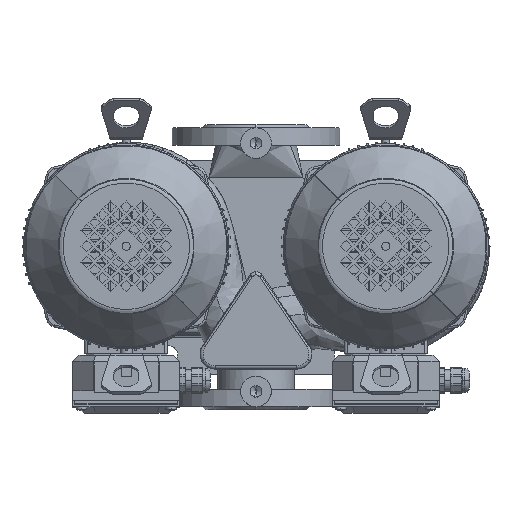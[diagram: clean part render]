
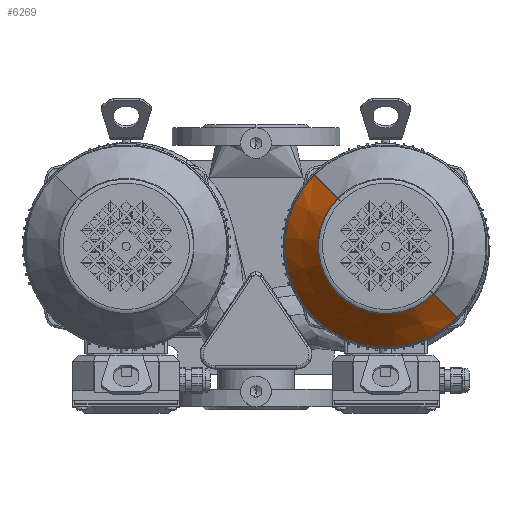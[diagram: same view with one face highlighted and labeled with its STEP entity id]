
A CAD part, top view. The second image highlights one B-rep face of the part: STEP entity #6269.
In plain terms, the highlighted conical face has half-angle 38.66 degrees and reference radius 65 mm.
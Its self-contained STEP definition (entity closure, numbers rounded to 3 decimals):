
#6269=ADVANCED_FACE('NONE',(#14769),#14770,.T.);
#14769=FACE_OUTER_BOUND('',#26316,.T.);
#14770=CONICAL_SURFACE('',#26317,65.0,0.675);
#26316=EDGE_LOOP('',(#42287,#42288,#42289,#42290));
#26317=AXIS2_PLACEMENT_3D('',#42291,#42292,#42293);
#42287=ORIENTED_EDGE('',*,*,#49682,.T.);
#42288=ORIENTED_EDGE('',*,*,#49733,.T.);
#42289=ORIENTED_EDGE('',*,*,#49684,.T.);
#42290=ORIENTED_EDGE('',*,*,#49735,.T.);
#42291=CARTESIAN_POINT('',(0.0,110.0,0.0));
#42292=DIRECTION('',(-0.0,-1.0,-0.0));
#42293=DIRECTION('',(0.0,0.0,-1.0));
#49682=EDGE_CURVE('',#61127,#61128,#61129,.T.);
#49684=EDGE_CURVE('',#61132,#61130,#61133,.T.);
#49733=EDGE_CURVE('NONE',#61128,#61132,#61214,.T.);
#49735=EDGE_CURVE('NONE',#61130,#61127,#61216,.T.);
#61127=VERTEX_POINT('',#81261);
#61128=VERTEX_POINT('NONE',#81262);
#61129=LINE('',#81263,#81264);
#61130=VERTEX_POINT('NONE',#81265);
#61132=VERTEX_POINT('',#81267);
#61133=LINE('',#81268,#81269);
#61214=CIRCLE('',#81618,99.685);
#61216=CIRCLE('',#81620,66.801);
#81261=CARTESIAN_POINT('',(0.,107.748,-66.801));
#81262=CARTESIAN_POINT('',(0.0,66.643,-99.685));
#81263=CARTESIAN_POINT('',(0.,110.0,-65.0));
#81264=VECTOR('',#90786,1.0);
#81265=CARTESIAN_POINT('',(0.,107.748,66.801));
#81267=CARTESIAN_POINT('',(0.,66.643,99.685));
#81268=CARTESIAN_POINT('',(0.,110.0,65.0));
#81269=VECTOR('',#90790,1.0);
#81618=AXIS2_PLACEMENT_3D('',#90867,#90868,#90869);
#81620=AXIS2_PLACEMENT_3D('',#90873,#90874,#90875);
#90786=DIRECTION('',(0.,-0.781,-0.625));
#90790=DIRECTION('',(0.,0.781,-0.625));
#90867=CARTESIAN_POINT('',(0.0,66.643,0.0));
#90868=DIRECTION('',(-0.0,1.0,0.0));
#90869=DIRECTION('',(0.0,0.0,1.0));
#90873=CARTESIAN_POINT('',(0.0,107.748,0.0));
#90874=DIRECTION('',(0.0,-1.0,0.0));
#90875=DIRECTION('',(0.0,0.0,1.0));
